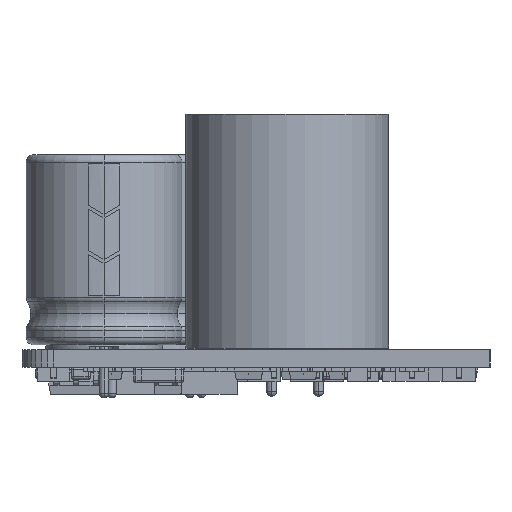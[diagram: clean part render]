
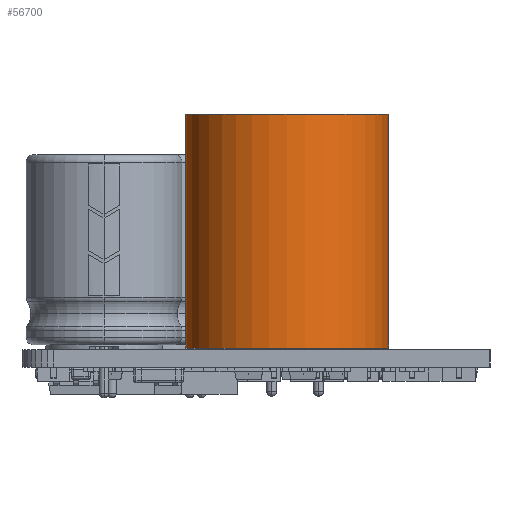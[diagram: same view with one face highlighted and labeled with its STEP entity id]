
A CAD part, left-side view. The second image highlights one B-rep face of the part: STEP entity #56700.
In plain terms, the highlighted cylindrical face has radius 6.5 mm (diameter 13 mm), a full revolution.
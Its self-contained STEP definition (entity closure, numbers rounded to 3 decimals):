
#56700 = ADVANCED_FACE('',(#56701),#56715,.T.);
#56701 = FACE_BOUND('',#56702,.T.);
#56702 = EDGE_LOOP('',(#56703,#56733,#56763,#56764));
#56703 = ORIENTED_EDGE('',*,*,#56704,.F.);
#56704 = EDGE_CURVE('',#56705,#56707,#56709,.T.);
#56705 = VERTEX_POINT('',#56706);
#56706 = CARTESIAN_POINT('',(6.5,0.,0.));
#56707 = VERTEX_POINT('',#56708);
#56708 = CARTESIAN_POINT('',(6.5,0.,15.));
#56709 = SEAM_CURVE('',#56710,(#56714,#56726),.PCURVE_S1.);
#56710 = LINE('',#56711,#56712);
#56711 = CARTESIAN_POINT('',(6.5,0.,0.));
#56712 = VECTOR('',#56713,1.);
#56713 = DIRECTION('',(0.,0.,1.));
#56714 = PCURVE('',#56715,#56720);
#56715 = CYLINDRICAL_SURFACE('',#56716,6.5);
#56716 = AXIS2_PLACEMENT_3D('',#56717,#56718,#56719);
#56717 = CARTESIAN_POINT('',(0.,0.,0.));
#56718 = DIRECTION('',(0.,0.,-1.));
#56719 = DIRECTION('',(1.,0.,0.));
#56720 = DEFINITIONAL_REPRESENTATION('',(#56721),#56725);
#56721 = LINE('',#56722,#56723);
#56722 = CARTESIAN_POINT('',(6.283,0.));
#56723 = VECTOR('',#56724,1.);
#56724 = DIRECTION('',(0.,-1.));
#56725 = ( GEOMETRIC_REPRESENTATION_CONTEXT(2) 
PARAMETRIC_REPRESENTATION_CONTEXT() REPRESENTATION_CONTEXT('2D SPACE',''
  ) );
#56726 = PCURVE('',#56715,#56727);
#56727 = DEFINITIONAL_REPRESENTATION('',(#56728),#56732);
#56728 = LINE('',#56729,#56730);
#56729 = CARTESIAN_POINT('',(0.,0.));
#56730 = VECTOR('',#56731,1.);
#56731 = DIRECTION('',(0.,-1.));
#56732 = ( GEOMETRIC_REPRESENTATION_CONTEXT(2) 
PARAMETRIC_REPRESENTATION_CONTEXT() REPRESENTATION_CONTEXT('2D SPACE',''
  ) );
#56733 = ORIENTED_EDGE('',*,*,#56734,.T.);
#56734 = EDGE_CURVE('',#56705,#56705,#56735,.T.);
#56735 = SURFACE_CURVE('',#56736,(#56741,#56747),.PCURVE_S1.);
#56736 = CIRCLE('',#56737,6.5);
#56737 = AXIS2_PLACEMENT_3D('',#56738,#56739,#56740);
#56738 = CARTESIAN_POINT('',(0.,0.,0.));
#56739 = DIRECTION('',(0.,0.,1.));
#56740 = DIRECTION('',(1.,0.,0.));
#56741 = PCURVE('',#56715,#56742);
#56742 = DEFINITIONAL_REPRESENTATION('',(#56743),#56746);
#56743 = B_SPLINE_CURVE_WITH_KNOTS('',1,(#56744,#56745),.UNSPECIFIED.,
  .F.,.F.,(2,2),(0.,6.283),.PIECEWISE_BEZIER_KNOTS.);
#56744 = CARTESIAN_POINT('',(6.283,0.));
#56745 = CARTESIAN_POINT('',(0.,0.));
#56746 = ( GEOMETRIC_REPRESENTATION_CONTEXT(2) 
PARAMETRIC_REPRESENTATION_CONTEXT() REPRESENTATION_CONTEXT('2D SPACE',''
  ) );
#56747 = PCURVE('',#56748,#56753);
#56748 = PLANE('',#56749);
#56749 = AXIS2_PLACEMENT_3D('',#56750,#56751,#56752);
#56750 = CARTESIAN_POINT('',(6.5,0.,0.));
#56751 = DIRECTION('',(0.,0.,-1.));
#56752 = DIRECTION('',(-1.,0.,0.));
#56753 = DEFINITIONAL_REPRESENTATION('',(#56754),#56762);
#56754 = ( BOUNDED_CURVE() B_SPLINE_CURVE(2,(#56755,#56756,#56757,#56758
    ,#56759,#56760,#56761),.UNSPECIFIED.,.F.,.F.) 
B_SPLINE_CURVE_WITH_KNOTS((1,2,2,2,2,1),(-2.094,0.,
    2.094,4.189,6.283,8.378),
.UNSPECIFIED.) CURVE() GEOMETRIC_REPRESENTATION_ITEM() 
RATIONAL_B_SPLINE_CURVE((1.,0.5,1.,0.5,1.,0.5,1.)) REPRESENTATION_ITEM(
  '') );
#56755 = CARTESIAN_POINT('',(0.,0.));
#56756 = CARTESIAN_POINT('',(0.,11.258));
#56757 = CARTESIAN_POINT('',(9.75,5.629));
#56758 = CARTESIAN_POINT('',(19.5,0.));
#56759 = CARTESIAN_POINT('',(9.75,-5.629));
#56760 = CARTESIAN_POINT('',(0.,-11.258));
#56761 = CARTESIAN_POINT('',(0.,0.));
#56762 = ( GEOMETRIC_REPRESENTATION_CONTEXT(2) 
PARAMETRIC_REPRESENTATION_CONTEXT() REPRESENTATION_CONTEXT('2D SPACE',''
  ) );
#56763 = ORIENTED_EDGE('',*,*,#56704,.T.);
#56764 = ORIENTED_EDGE('',*,*,#56765,.F.);
#56765 = EDGE_CURVE('',#56707,#56707,#56766,.T.);
#56766 = SURFACE_CURVE('',#56767,(#56772,#56778),.PCURVE_S1.);
#56767 = CIRCLE('',#56768,6.5);
#56768 = AXIS2_PLACEMENT_3D('',#56769,#56770,#56771);
#56769 = CARTESIAN_POINT('',(0.,0.,15.));
#56770 = DIRECTION('',(0.,0.,1.));
#56771 = DIRECTION('',(1.,0.,0.));
#56772 = PCURVE('',#56715,#56773);
#56773 = DEFINITIONAL_REPRESENTATION('',(#56774),#56777);
#56774 = B_SPLINE_CURVE_WITH_KNOTS('',1,(#56775,#56776),.UNSPECIFIED.,
  .F.,.F.,(2,2),(0.,6.283),.PIECEWISE_BEZIER_KNOTS.);
#56775 = CARTESIAN_POINT('',(6.283,-15.));
#56776 = CARTESIAN_POINT('',(0.,-15.));
#56777 = ( GEOMETRIC_REPRESENTATION_CONTEXT(2) 
PARAMETRIC_REPRESENTATION_CONTEXT() REPRESENTATION_CONTEXT('2D SPACE',''
  ) );
#56778 = PCURVE('',#56779,#56784);
#56779 = PLANE('',#56780);
#56780 = AXIS2_PLACEMENT_3D('',#56781,#56782,#56783);
#56781 = CARTESIAN_POINT('',(6.5,0.,15.));
#56782 = DIRECTION('',(0.,0.,-1.));
#56783 = DIRECTION('',(-1.,0.,0.));
#56784 = DEFINITIONAL_REPRESENTATION('',(#56785),#56793);
#56785 = ( BOUNDED_CURVE() B_SPLINE_CURVE(2,(#56786,#56787,#56788,#56789
    ,#56790,#56791,#56792),.UNSPECIFIED.,.F.,.F.) 
B_SPLINE_CURVE_WITH_KNOTS((1,2,2,2,2,1),(-2.094,0.,
    2.094,4.189,6.283,8.378),
.UNSPECIFIED.) CURVE() GEOMETRIC_REPRESENTATION_ITEM() 
RATIONAL_B_SPLINE_CURVE((1.,0.5,1.,0.5,1.,0.5,1.)) REPRESENTATION_ITEM(
  '') );
#56786 = CARTESIAN_POINT('',(0.,0.));
#56787 = CARTESIAN_POINT('',(0.,11.258));
#56788 = CARTESIAN_POINT('',(9.75,5.629));
#56789 = CARTESIAN_POINT('',(19.5,0.));
#56790 = CARTESIAN_POINT('',(9.75,-5.629));
#56791 = CARTESIAN_POINT('',(0.,-11.258));
#56792 = CARTESIAN_POINT('',(0.,0.));
#56793 = ( GEOMETRIC_REPRESENTATION_CONTEXT(2) 
PARAMETRIC_REPRESENTATION_CONTEXT() REPRESENTATION_CONTEXT('2D SPACE',''
  ) );
